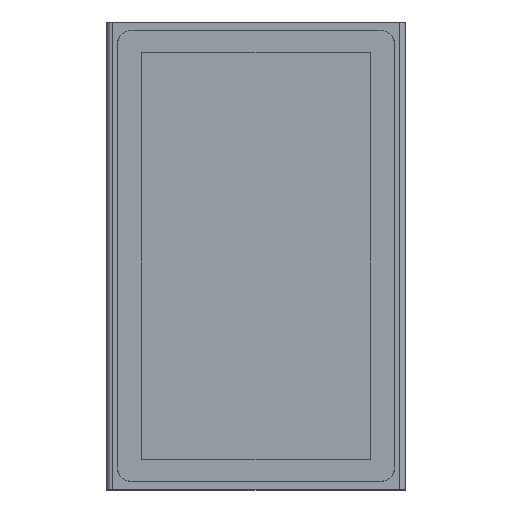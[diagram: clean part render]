
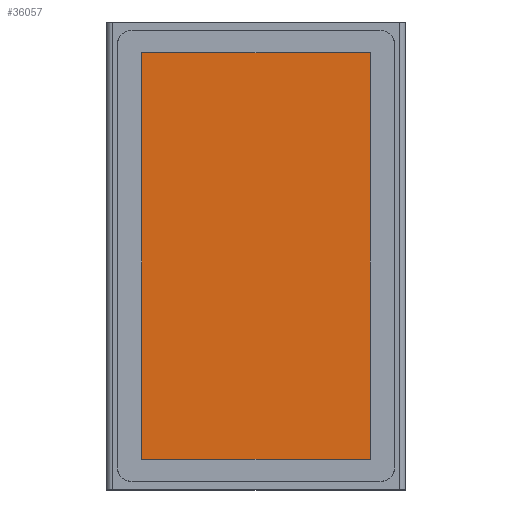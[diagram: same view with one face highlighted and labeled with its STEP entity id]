
A CAD part, top view. The second image highlights one B-rep face of the part: STEP entity #36057.
In plain terms, the highlighted planar face has unit normal (0, 0, 1).
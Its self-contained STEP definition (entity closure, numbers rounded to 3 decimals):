
#35386=DIRECTION('',(0.,-1.,0.));
#35387=VECTOR('',#35386,409.9);
#35388=CARTESIAN_POINT('',(-115.2,204.95,-0.4));
#35389=LINE('',#35388,#35387);
#35393=DIRECTION('',(-1.,0.,0.));
#35394=VECTOR('',#35393,230.4);
#35395=CARTESIAN_POINT('',(115.2,204.95,-0.4));
#35396=LINE('',#35395,#35394);
#35400=DIRECTION('',(0.,1.,0.));
#35401=VECTOR('',#35400,409.9);
#35402=CARTESIAN_POINT('',(115.2,-204.95,-0.4));
#35403=LINE('',#35402,#35401);
#35407=DIRECTION('',(1.,0.,0.));
#35408=VECTOR('',#35407,230.4);
#35409=CARTESIAN_POINT('',(-115.2,-204.95,-0.4));
#35410=LINE('',#35409,#35408);
#35518=CARTESIAN_POINT('',(-115.2,-204.95,-0.4));
#35519=VERTEX_POINT('',#35518);
#35520=CARTESIAN_POINT('',(-115.2,204.95,-0.4));
#35521=VERTEX_POINT('',#35520);
#35522=CARTESIAN_POINT('',(115.2,204.95,-0.4));
#35523=VERTEX_POINT('',#35522);
#35524=CARTESIAN_POINT('',(115.2,-204.95,-0.4));
#35525=VERTEX_POINT('',#35524);
#36046=CARTESIAN_POINT('',(0.,0.,-0.4));
#36047=DIRECTION('',(0.,0.,1.));
#36048=DIRECTION('',(0.,1.,0.));
#36049=AXIS2_PLACEMENT_3D('',#36046,#36047,#36048);
#36050=PLANE('',#36049);
#36051=ORIENTED_EDGE('',*,*,#35998,.F.);
#36052=ORIENTED_EDGE('',*,*,#36013,.F.);
#36053=ORIENTED_EDGE('',*,*,#36027,.F.);
#36054=ORIENTED_EDGE('',*,*,#36040,.F.);
#36055=EDGE_LOOP('',(#36051,#36052,#36053,#36054));
#36056=FACE_OUTER_BOUND('',#36055,.F.);
#36057=ADVANCED_FACE('',(#36056),#36050,.T.);
#35998=EDGE_CURVE('',#35521,#35519,#35389,.T.);
#36013=EDGE_CURVE('',#35523,#35521,#35396,.T.);
#36027=EDGE_CURVE('',#35525,#35523,#35403,.T.);
#36040=EDGE_CURVE('',#35519,#35525,#35410,.T.);
